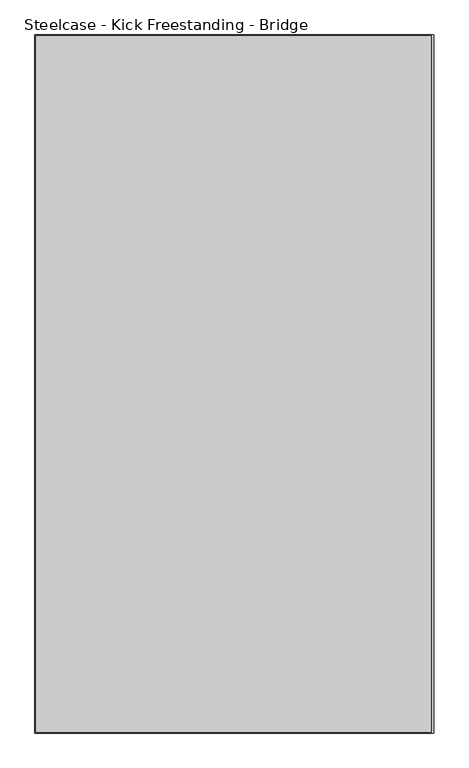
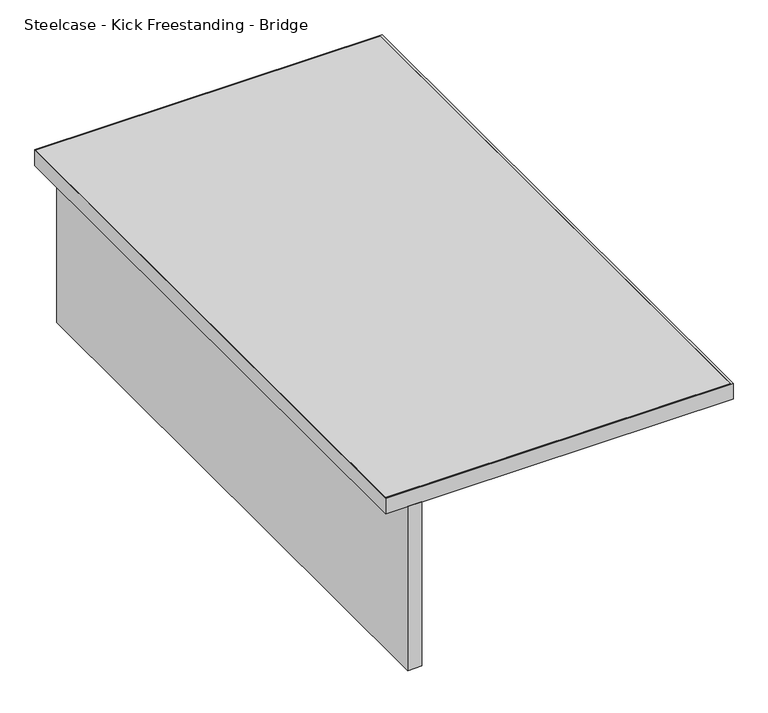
"""IFC4 building model written with IfcOpenShell, lengths in millimetres: furniture geometry, Steelcase - Kick Freestanding - Bridge : 24D x 42W - Half Panel."""

from ifc_helpers import new_model, si_unit, frame, origin, place, context, project, spatial, polyline, outline, extrude, source, transform, mapped, element, save


def steelcase_kick_freestanding_bridge_bb7c8a81(model_context):
    return source(origin(), model_context, "Body", "SweptSolid", [
        extrude(outline(polyline([(2201.9594425, -1613.6145152), (2201.9594425, -546.8145152), (2227.3594425, -546.8145152), (2227.3594425, -1613.6145152), (2201.9594425, -1613.6145152)])), frame((0.0, 0.0, 377.444), z_axis=(0.0, 0.0, 1.0), x_axis=(1.0, 0.0, 0.0)), (0.0, 0.0, 1.0), 304.8),
        extrude(outline(polyline([(2769.2176592, -548.0845152), (2769.2176592, -1612.3445152), (2164.8500425, -1612.3445152), (2164.8500425, -548.0845152), (2769.2176592, -548.0845152)])), frame((0.0, 0.0, 682.244), z_axis=(0.0, 0.0, 1.0), x_axis=(1.0, 0.0, 0.0)), (0.0, 0.0, 1.0), 28.956),
        extrude(outline(polyline([(2773.4594425, -546.8145152), (2773.4594425, -1613.6145152), (2163.8594425, -1613.6145152), (2163.8594425, -546.8145152), (2773.4594425, -546.8145152)]), holes=[polyline([(2769.2176592, -548.0845152), (2164.8500425, -548.0845152), (2164.8500425, -1612.3445152), (2769.2176592, -1612.3445152), (2769.2176592, -548.0845152)])]), frame((0.0, 0.0, 682.244), z_axis=(0.0, 0.0, 1.0), x_axis=(1.0, 0.0, 0.0)), (0.0, 0.0, 1.0), 28.956),
    ])


if __name__ == "__main__":
    model = new_model("IFC4")
    model_context = context("Model", 3, world=origin())
    ifc_project = project(units=[si_unit("LENGTHUNIT", "METRE", prefix="MILLI")], contexts=[model_context])
    site = spatial("IfcSite", under=ifc_project)
    building = spatial("IfcBuilding", under=site)
    placement = place(None, origin())
    steelcase_kick_freestanding_bridge_shape = steelcase_kick_freestanding_bridge_bb7c8a81(model_context)
    element("IfcFurniture", 1, ObjectType="Steelcase - Kick Freestanding - Bridge : 24D x 42W - Half Panel", at=placement, inside=building, context=model_context, shape_type="MappedRepresentation", body=[
        mapped(steelcase_kick_freestanding_bridge_shape, transform((0.0, 0.0, 0.0), x_axis=(1.0, 0.0, 0.0), y_axis=(0.0, 1.0, 0.0), z_axis=(0.0, 0.0, 1.0))),
    ])
    save(model, "model.ifc")
